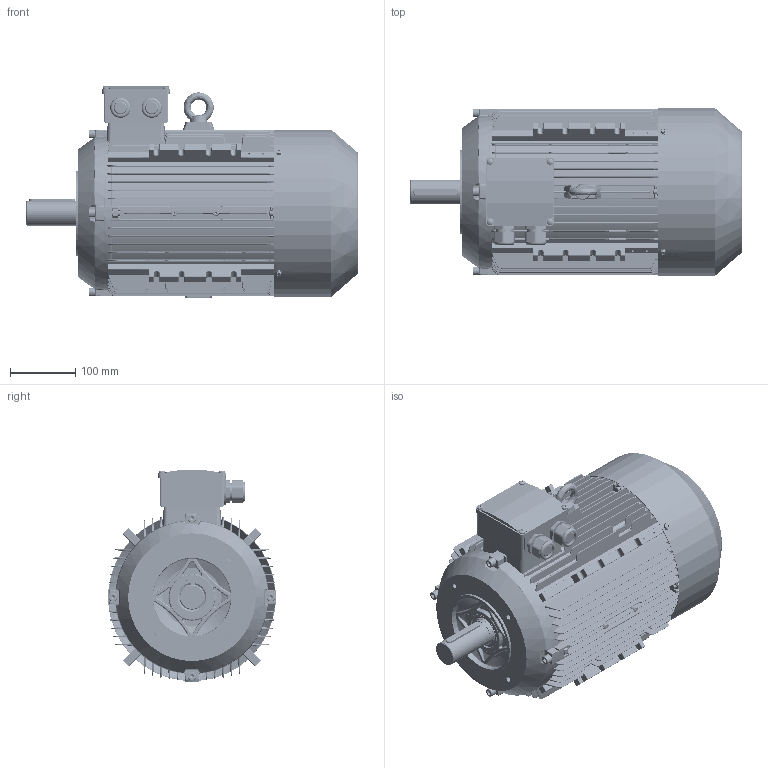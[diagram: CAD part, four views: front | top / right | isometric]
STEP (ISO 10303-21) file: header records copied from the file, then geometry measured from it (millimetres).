
FILE_DESCRIPTION (( 'STEP AP203' ), '1' );
FILE_NAME ('IE3 132M B14.STEP', '2018-07-17T07:03:56', ( 'admin' ), ( '' ), 'SwSTEP 2.0', 'SolidWorks 2014', '' );
FILE_SCHEMA (( 'CONFIG_CONTROL_DESIGN' ));
Length unit declared in the file: millimetre
Products named in the file (19): eyebolts gb_GB_FASTENER_SCREWS_FRS M10-N; deep groove ball bearings gb_Rolling bearings 6308 GB 276-94; spring lock washers--normal type gb_GB_FASTENER_WASHER_SW 8; DMX-IE3 132 fan; hexagon socket head cap screws gb_GB_FASTENER_SCREWS_HSHCS M8X40-N; DMX-IE3 132 fan cover; hexagon nuts grade c gb_GB_FASTENER_NUT_SNC1 M8-N; DMX-IE3 132 terminal base; hexagon flange head tapping screws gb_GB_SQUARE_AND_HEXAGON_TYPE137 ST4.8X9.5 C-N; DMX-IE3 132 terimianl cover; cross recessed pan head screws gb_GB_CROSS_SCREWS_TYPE1 M5X12-12  H type-N; DMX-IE3 132 shaft cover; DMX-IE3 132 casing ; DMX-IE3 Flange; DMX-IE3 132 oil seal; DMX-IE3 132 B3 Shield ; IE3 132M B14; plain parallel keys_GB_CONNECTING_PIECE_KEYS_CSK 10X70; DMX-IE3 132shaft
Assembly tree (46 placements, depth 2):
  IE3 132M B14
    DMX-IE3 132 casing 
    DMX-IE3 132 B3 Shield 
    DMX-IE3 132shaft
    deep groove ball bearings gb_Rolling bearings 6308 GB 276-94  x2
    DMX-IE3 132 fan
    DMX-IE3 132 fan cover
    DMX-IE3 132 terminal base
    DMX-IE3 132 terimianl cover
    DMX-IE3 132 shaft cover  x2
    DMX-IE3 132 oil seal
    plain parallel keys_GB_CONNECTING_PIECE_KEYS_CSK 10X70
    eyebolts gb_GB_FASTENER_SCREWS_FRS M10-N
    spring lock washers--normal type gb_GB_FASTENER_WASHER_SW 8  x8
    hexagon socket head cap screws gb_GB_FASTENER_SCREWS_HSHCS M8X40-N  x8
    hexagon nuts grade c gb_GB_FASTENER_NUT_SNC1 M8-N  x7
    hexagon flange head tapping screws gb_GB_SQUARE_AND_HEXAGON_TYPE137 ST4.8X9.5 C-N  x4
    cross recessed pan head screws gb_GB_CROSS_SCREWS_TYPE1 M5X12-12  H type-N  x4
    DMX-IE3 Flange
Bounding box: 508.57 x 256.22 x 325 mm (x, y, z)
Volume: 3859743.2 mm3; surface area: 1790025 mm2
Topology: 47 solids, 49 shells, 7461 faces, 19420 edges, 11853 vertices
Faces by surface type: plane 2397, bspline 2177, cylinder 1965, cone 553, torus 281, sphere 88
Entity records: 306147 total; most frequent: CARTESIAN_POINT 156428, ORIENTED_EDGE 34626, DIRECTION 24983, EDGE_CURVE 17313, VERTEX_POINT 10633, AXIS2_PLACEMENT_3D 8955, EDGE_LOOP 7436, LINE 7073
